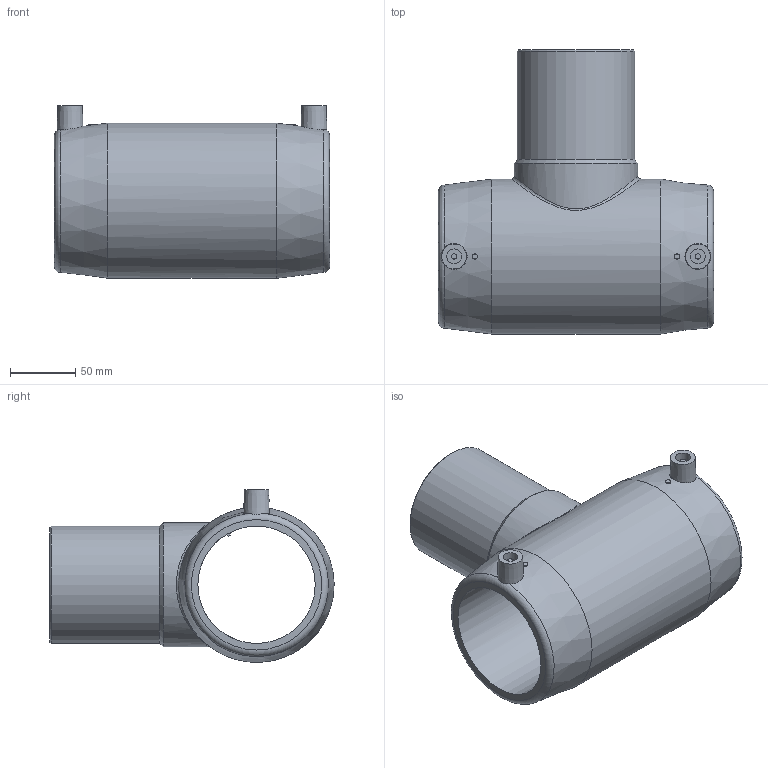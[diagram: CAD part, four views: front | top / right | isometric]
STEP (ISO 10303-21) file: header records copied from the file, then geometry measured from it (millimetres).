
FILE_DESCRIPTION(/* description */ ('Unknown'),/* implementation_level */ '2;1');
FILE_NAME(/* name */ 'TEP090C',/* time_stamp */ '2021-04-02T10:12:43+02:00',/* author */ ('Unknown'),/* organization */ ('Unknown'),/* preprocessor_version */ 'ST-DEVELOPER v16.7',/* originating_system */ 'Solid Edge',/* authorisation */ 'Unknown');
FILE_SCHEMA (('AUTOMOTIVE_DESIGN {1 0 10303 214 3 1 1}'));
Length unit declared in the file: millimetre
Products named in the file (1): TEP090C
Bounding box: 211 x 218 x 132.5 mm (x, y, z)
Volume: 1110278 mm3; surface area: 195320.9 mm2
Topology: 1 solids, 1 shells, 36 faces, 79 edges, 52 vertices
Faces by surface type: plane 16, cylinder 11, cone 6, torus 2, bspline 1
Full cylindrical faces by diameter (mm): 4 x4, 11.5 x2, 73.6 x1, 90 x2, 95 x1, 119 x1
Entity records: 1209 total; most frequent: CARTESIAN_POINT 535, DIRECTION 136, ORIENTED_EDGE 92, EDGE_LOOP 68, FACE_BOUND 68, AXIS2_PLACEMENT_3D 63, EDGE_CURVE 46, VERTEX_POINT 40
